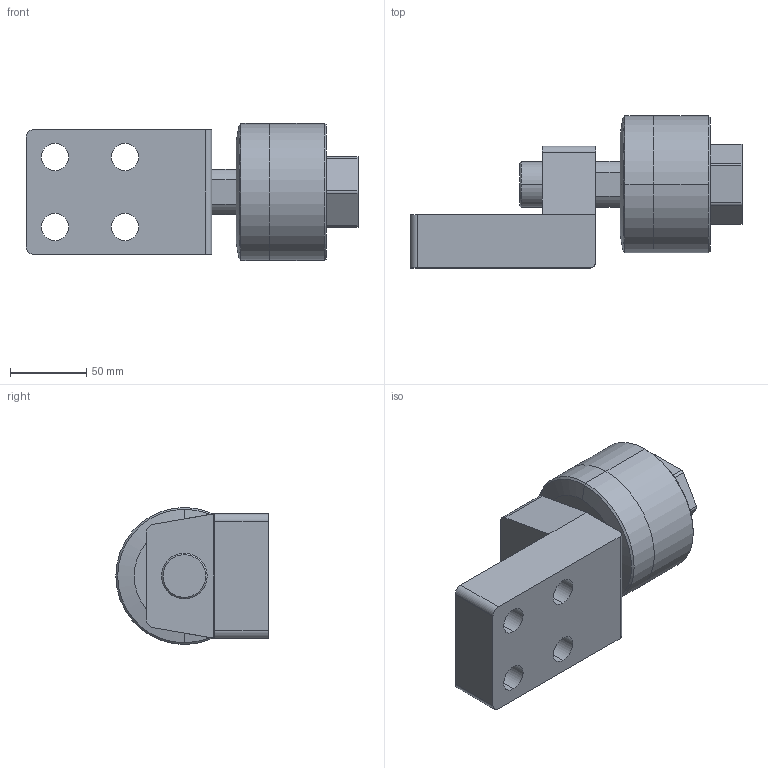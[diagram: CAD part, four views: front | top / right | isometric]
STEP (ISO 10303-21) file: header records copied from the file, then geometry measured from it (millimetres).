
FILE_DESCRIPTION (( 'STEP AP203' ), '1' );
FILE_NAME ('FCM30-1.5-L.STEP', '2016-04-14T02:01:13', ( '' ), ( '' ), 'SwSTEP 2.0', 'SolidWorks 2014', '' );
FILE_SCHEMA (( 'CONFIG_CONTROL_DESIGN' ));
Length unit declared in the file: millimetre
Products named in the file (3): FCM30-L; FCM30-1.5; FCM30-1.5-L
Assembly tree (2 placements, depth 2):
  FCM30-1.5-L
    FCM30-1.5
    FCM30-L
Bounding box: 218 x 100 x 90 mm (x, y, z)
Volume: 847234.1 mm3; surface area: 91337.9 mm2
Topology: 2 solids, 2 shells, 71 faces, 174 edges, 110 vertices
Faces by surface type: cylinder 34, plane 29, cone 8
Entity records: 2423 total; most frequent: DIRECTION 398, CARTESIAN_POINT 366, ORIENTED_EDGE 348, EDGE_CURVE 174, AXIS2_PLACEMENT_3D 150, VERTEX_POINT 110, LINE 98, VECTOR 98
